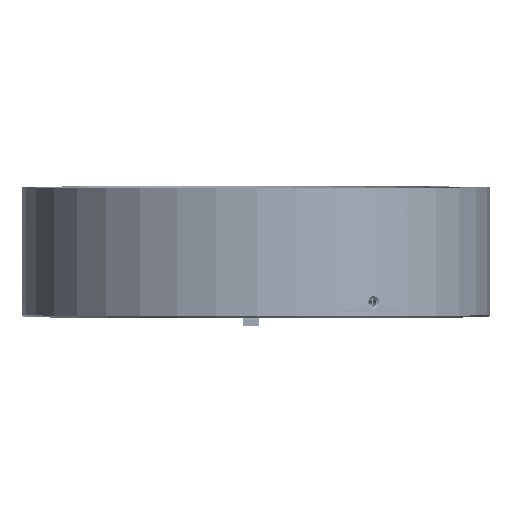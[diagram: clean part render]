
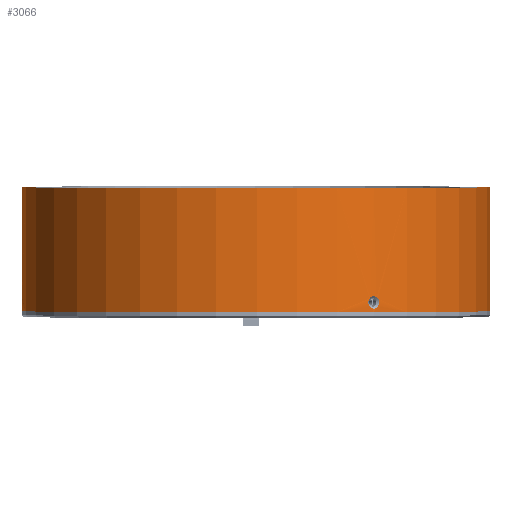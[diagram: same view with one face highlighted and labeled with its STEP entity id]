
A CAD part, left-side view. The second image highlights one B-rep face of the part: STEP entity #3066.
In plain terms, the highlighted cylindrical face has radius 60 mm (diameter 120 mm), a partial arc.
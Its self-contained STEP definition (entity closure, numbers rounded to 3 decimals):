
#3066=ADVANCED_FACE('NONE',(#8959,#8960),#8961,.T.);
#8959=FACE_OUTER_BOUND('',#18432,.T.);
#8960=FACE_BOUND('',#18433,.T.);
#8961=CYLINDRICAL_SURFACE('',#18434,60.0);
#18432=EDGE_LOOP('',(#29163,#29164,#29165,#29166,#29167,#29168));
#18433=EDGE_LOOP('',(#29169,#29170));
#18434=AXIS2_PLACEMENT_3D('',#29171,#29172,#29173);
#29163=ORIENTED_EDGE('',*,*,#55444,.F.);
#29164=ORIENTED_EDGE('',*,*,#55490,.T.);
#29165=ORIENTED_EDGE('',*,*,#55450,.T.);
#29166=ORIENTED_EDGE('',*,*,#55471,.F.);
#29167=ORIENTED_EDGE('',*,*,#55448,.F.);
#29168=ORIENTED_EDGE('',*,*,#55493,.T.);
#29169=ORIENTED_EDGE('',*,*,#55494,.T.);
#29170=ORIENTED_EDGE('',*,*,#55495,.T.);
#29171=CARTESIAN_POINT('',(0.0,0.0,0.0));
#29172=DIRECTION('',(0.0,1.0,0.0));
#29173=DIRECTION('',(0.0,0.0,-1.0));
#55444=EDGE_CURVE('NONE',#65790,#65792,#65793,.T.);
#55448=EDGE_CURVE('NONE',#65798,#65800,#65801,.T.);
#55450=EDGE_CURVE('NONE',#65804,#65802,#65805,.T.);
#55471=EDGE_CURVE('NONE',#65800,#65802,#65840,.T.);
#55490=EDGE_CURVE('NONE',#65790,#65804,#65863,.T.);
#55493=EDGE_CURVE('NONE',#65798,#65792,#65866,.T.);
#55494=EDGE_CURVE('NONE',#65867,#65868,#65869,.T.);
#55495=EDGE_CURVE('NONE',#65868,#65867,#65870,.T.);
#65790=VERTEX_POINT('NONE',#81611);
#65792=VERTEX_POINT('NONE',#81613);
#65793=LINE('',#81614,#81615);
#65798=VERTEX_POINT('NONE',#81642);
#65800=VERTEX_POINT('NONE',#81647);
#65801=LINE('',#81648,#81649);
#65802=VERTEX_POINT('NONE',#81650);
#65804=VERTEX_POINT('NONE',#81652);
#65805=LINE('',#81653,#81654);
#65840=CIRCLE('',#81783,60.0);
#65863=CIRCLE('',#81856,60.0);
#65866=B_SPLINE_CURVE_WITH_KNOTS('',3,(#81860,#81861,#81862,#81863,#81864,#81865,#81866,#81867,#81868,#81869,#81870,#81871,#81872,#81873,#81874,#81875,#81876,#81877,#81878,#81879,#81880,#81881),.UNSPECIFIED.,.F.,.F.,(4,2,2,2,2,2,2,2,2,2,4),(0.001,0.126,0.25,0.375,0.5,0.562,0.625,0.75,0.874,0.937,0.999),.UNSPECIFIED.);
#65867=VERTEX_POINT('NONE',#81882);
#65868=VERTEX_POINT('NONE',#81883);
#65869=B_SPLINE_CURVE_WITH_KNOTS('',3,(#81884,#81885,#81886,#81887,#81888,#81889,#81890,#81891,#81892,#81893,#81894,#81895,#81896,#81897,#81898,#81899,#81900,#81901,#81902,#81903),.UNSPECIFIED.,.F.,.F.,(4,2,2,2,2,2,2,2,2,4),(0.0,0.125,0.25,0.375,0.5,0.562,0.625,0.75,0.875,1.0),.UNSPECIFIED.);
#65870=B_SPLINE_CURVE_WITH_KNOTS('',3,(#81904,#81905,#81906,#81907,#81908,#81909,#81910,#81911,#81912,#81913,#81914,#81915,#81916,#81917,#81918,#81919,#81920,#81921,#81922,#81923),.UNSPECIFIED.,.F.,.F.,(4,2,2,2,2,2,2,2,2,4),(0.0,0.125,0.25,0.375,0.5,0.562,0.625,0.75,0.875,1.0),.UNSPECIFIED.);
#81611=CARTESIAN_POINT('',(0.,31.8,60.0));
#81613=CARTESIAN_POINT('',(0.,30.891,60.));
#81614=CARTESIAN_POINT('',(0.,0.0,60.0));
#81615=VECTOR('',#119886,1000.0);
#81642=CARTESIAN_POINT('',(0.,27.709,60.));
#81647=CARTESIAN_POINT('',(0.,0.,60.0));
#81648=CARTESIAN_POINT('',(0.,0.0,60.0));
#81649=VECTOR('',#119887,1000.0);
#81650=CARTESIAN_POINT('',(0.0,0.,-60.0));
#81652=CARTESIAN_POINT('',(0.0,31.8,-60.0));
#81653=CARTESIAN_POINT('',(0.0,0.0,-60.0));
#81654=VECTOR('',#119891,1000.0);
#81783=AXIS2_PLACEMENT_3D('',#119914,#119915,#119916);
#81856=AXIS2_PLACEMENT_3D('',#119944,#119945,#119946);
#81860=CARTESIAN_POINT('',(0.,27.709,60.));
#81861=CARTESIAN_POINT('',(-0.211,27.708,60.0));
#81862=CARTESIAN_POINT('',(-0.422,27.748,59.999));
#81863=CARTESIAN_POINT('',(-0.812,27.907,59.995));
#81864=CARTESIAN_POINT('',(-0.99,28.024,59.992));
#81865=CARTESIAN_POINT('',(-1.289,28.319,59.986));
#81866=CARTESIAN_POINT('',(-1.409,28.496,59.984));
#81867=CARTESIAN_POINT('',(-1.57,28.881,59.98));
#81868=CARTESIAN_POINT('',(-1.613,29.09,59.978));
#81869=CARTESIAN_POINT('',(-1.613,29.403,59.978));
#81870=CARTESIAN_POINT('',(-1.603,29.508,59.979));
#81871=CARTESIAN_POINT('',(-1.561,29.714,59.98));
#81872=CARTESIAN_POINT('',(-1.531,29.813,59.98));
#81873=CARTESIAN_POINT('',(-1.41,30.103,59.983));
#81874=CARTESIAN_POINT('',(-1.291,30.279,59.986));
#81875=CARTESIAN_POINT('',(-0.991,30.576,59.992));
#81876=CARTESIAN_POINT('',(-0.814,30.692,59.995));
#81877=CARTESIAN_POINT('',(-0.519,30.812,59.998));
#81878=CARTESIAN_POINT('',(-0.419,30.842,59.999));
#81879=CARTESIAN_POINT('',(-0.213,30.882,60.));
#81880=CARTESIAN_POINT('',(-0.106,30.892,60.0));
#81881=CARTESIAN_POINT('',(0.,30.891,60.));
#81882=CARTESIAN_POINT('',(-51.963,30.891,-29.997));
#81883=CARTESIAN_POINT('',(-51.963,27.709,-29.997));
#81884=CARTESIAN_POINT('',(-51.963,30.891,-29.997));
#81885=CARTESIAN_POINT('',(-52.068,30.889,-29.815));
#81886=CARTESIAN_POINT('',(-52.171,30.847,-29.634));
#81887=CARTESIAN_POINT('',(-52.36,30.686,-29.299));
#81888=CARTESIAN_POINT('',(-52.446,30.568,-29.145));
#81889=CARTESIAN_POINT('',(-52.588,30.274,-28.887));
#81890=CARTESIAN_POINT('',(-52.645,30.099,-28.784));
#81891=CARTESIAN_POINT('',(-52.721,29.714,-28.644));
#81892=CARTESIAN_POINT('',(-52.741,29.507,-28.608));
#81893=CARTESIAN_POINT('',(-52.741,29.198,-28.608));
#81894=CARTESIAN_POINT('',(-52.736,29.093,-28.617));
#81895=CARTESIAN_POINT('',(-52.717,28.89,-28.652));
#81896=CARTESIAN_POINT('',(-52.702,28.791,-28.679));
#81897=CARTESIAN_POINT('',(-52.645,28.503,-28.784));
#81898=CARTESIAN_POINT('',(-52.589,28.328,-28.886));
#81899=CARTESIAN_POINT('',(-52.446,28.032,-29.144));
#81900=CARTESIAN_POINT('',(-52.361,27.914,-29.298));
#81901=CARTESIAN_POINT('',(-52.171,27.753,-29.634));
#81902=CARTESIAN_POINT('',(-52.069,27.711,-29.814));
#81903=CARTESIAN_POINT('',(-51.963,27.709,-29.997));
#81904=CARTESIAN_POINT('',(-51.963,27.709,-29.997));
#81905=CARTESIAN_POINT('',(-51.858,27.707,-30.18));
#81906=CARTESIAN_POINT('',(-51.751,27.748,-30.362));
#81907=CARTESIAN_POINT('',(-51.552,27.906,-30.698));
#81908=CARTESIAN_POINT('',(-51.46,28.023,-30.852));
#81909=CARTESIAN_POINT('',(-51.306,28.318,-31.109));
#81910=CARTESIAN_POINT('',(-51.243,28.495,-31.211));
#81911=CARTESIAN_POINT('',(-51.159,28.88,-31.349));
#81912=CARTESIAN_POINT('',(-51.136,29.09,-31.386));
#81913=CARTESIAN_POINT('',(-51.136,29.403,-31.386));
#81914=CARTESIAN_POINT('',(-51.142,29.509,-31.377));
#81915=CARTESIAN_POINT('',(-51.163,29.714,-31.342));
#81916=CARTESIAN_POINT('',(-51.179,29.813,-31.316));
#81917=CARTESIAN_POINT('',(-51.243,30.105,-31.212));
#81918=CARTESIAN_POINT('',(-51.305,30.281,-31.11));
#81919=CARTESIAN_POINT('',(-51.46,30.576,-30.853));
#81920=CARTESIAN_POINT('',(-51.552,30.694,-30.699));
#81921=CARTESIAN_POINT('',(-51.751,30.852,-30.363));
#81922=CARTESIAN_POINT('',(-51.857,30.893,-30.181));
#81923=CARTESIAN_POINT('',(-51.963,30.891,-29.997));
#119886=DIRECTION('',(0.0,-1.0,0.0));
#119887=DIRECTION('',(0.0,-1.0,0.0));
#119891=DIRECTION('',(0.0,-1.0,0.0));
#119914=CARTESIAN_POINT('',(0.0,0.,0.0));
#119915=DIRECTION('',(0.0,-1.0,0.0));
#119916=DIRECTION('',(0.0,0.0,-1.0));
#119944=CARTESIAN_POINT('',(0.0,31.8,0.0));
#119945=DIRECTION('',(0.0,-1.0,0.0));
#119946=DIRECTION('',(0.0,0.0,-1.0));
